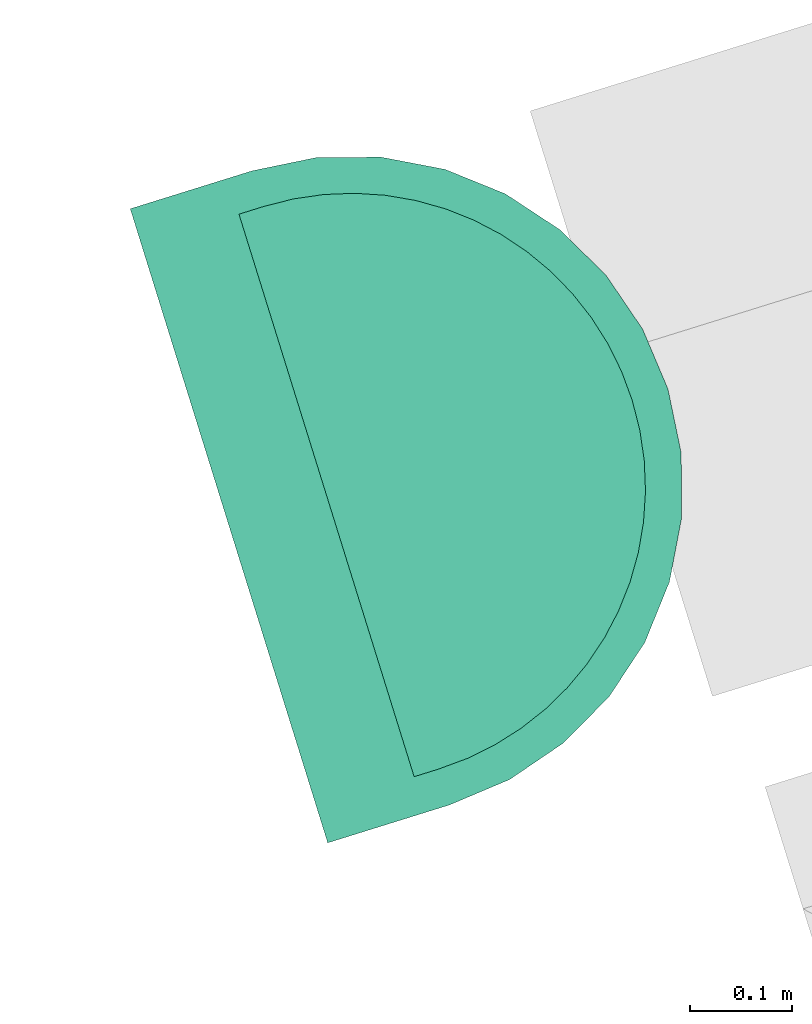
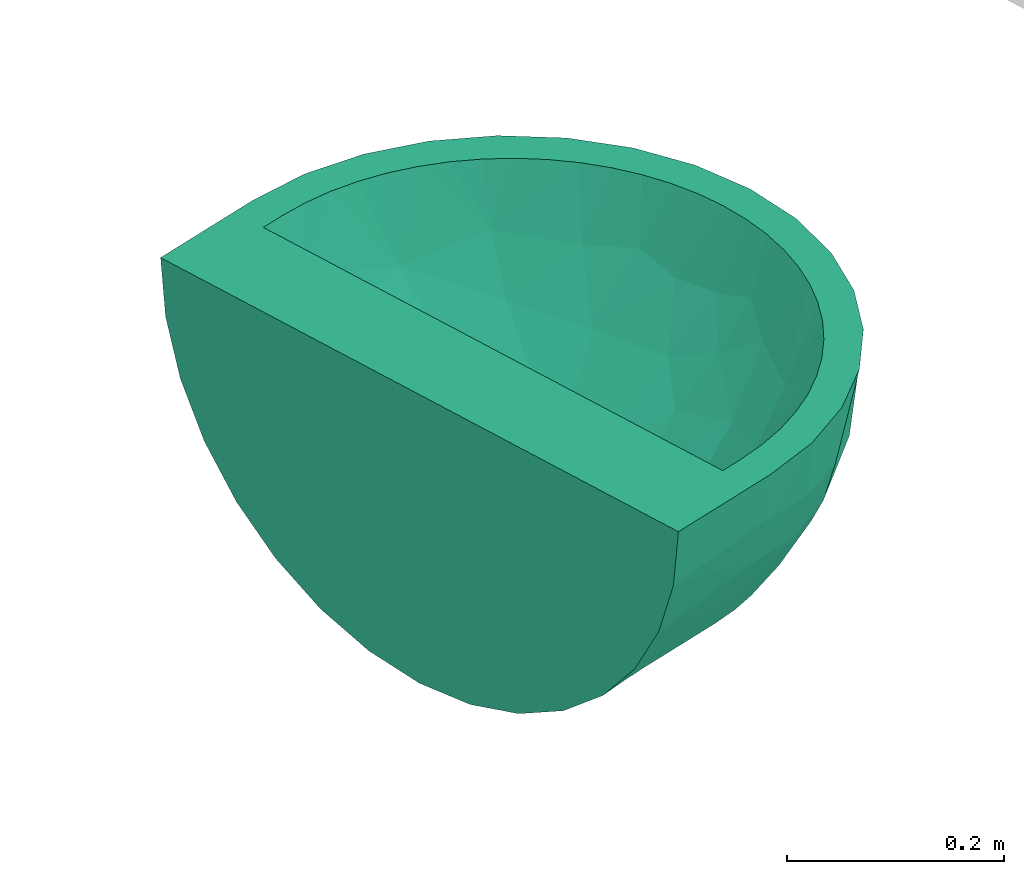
# Not in any storey, part 8 of 17: 1 sanitary terminal.
"""IFC4 model written with IfcOpenShell, lengths in metres."""

from ifc_helpers import new_model, entity, si_unit, converted_unit, direction, frame, origin, place, context, subcontext, project, polygons, source, transform, mapped, material, type_object, type_shapes, element, save


model = new_model("IFC4")

# Units and contexts
model_context = context("Model", 3, precision=1e-05, world=origin(), true_north=direction((6.12323399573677e-17, 1.0)))
body_context = subcontext(model_context, "Body", "Model", "MODEL_VIEW")
ifc_project = project(units=[si_unit("LENGTHUNIT", "METRE"), si_unit("AREAUNIT", "SQUARE_METRE"), converted_unit("PLANEANGLEUNIT", "DEGREE", entity("IfcPlaneAngleMeasure", 0.0174532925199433), si_unit("PLANEANGLEUNIT", "RADIAN"), dimensions=[0, 0, 0, 0, 0, 0, 0]), si_unit("VOLUMEUNIT", "CUBIC_METRE")], contexts=[model_context])

# Sanitary terminal
ifc_material = material(Name="<Unnamed>")
sanitary_terminal_type = type_object("IfcSanitaryTerminalType", Name="NLRS_74_PF_WB_wastafel_gen:wastafel", PredefinedType="SINK", material=ifc_material)
shared_shape = source(origin(), body_context, "Body", "Tessellation", [
    polygons([(-0.303081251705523, -0.175000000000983, -6.7), (-0.296836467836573, -0.238404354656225, -6.7), (-0.278342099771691, -0.299372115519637, -6.7), (-0.248308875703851, -0.355560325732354, -6.7), (-0.207890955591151, -0.404809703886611, -6.7), (-0.158641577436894, -0.44522762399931, -6.7), (-0.102453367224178, -0.475260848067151, -6.7), (-0.0414856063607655, -0.493755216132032, -6.7), (0.021918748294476, -0.500000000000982, -6.7), (0.021918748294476, -0.463314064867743, -6.7), (-0.00821701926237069, -0.461734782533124, -6.7), (-0.038024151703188, -0.457013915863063, -6.7), (-0.0671705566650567, -0.449204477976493, -6.7), (-0.0953421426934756, -0.438391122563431, -6.7), (-0.122231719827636, -0.424691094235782, -6.7), (-0.147543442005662, -0.408254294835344, -6.7), (-0.170998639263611, -0.389261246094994, -6.7), (-0.192339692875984, -0.367920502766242, -6.7), (-0.21133265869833, -0.344466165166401, -6.7), (-0.227769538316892, -0.319155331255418, -6.7), (-0.241470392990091, -0.292265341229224, -6.7), (-0.252285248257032, -0.264090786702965, -6.7), (-0.260095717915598, -0.234940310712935, -6.7), (-0.264816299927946, -0.205133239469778, -6.7), (-0.266395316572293, -0.175000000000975, -6.7), (-0.266395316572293, -0.150000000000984, -6.7), (0.021918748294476, -0.150000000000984, -6.7), (0.021918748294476, -0.0499999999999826, -6.7), (-0.303081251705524, -0.0499999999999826, -6.7), (0.346918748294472, -0.175000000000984, -6.7), (0.346918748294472, -0.0499999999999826, -6.7), (0.310232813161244, -0.150000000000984, -6.7), (0.310232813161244, -0.175000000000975, -6.7), (0.308653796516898, -0.205133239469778, -6.7), (0.303933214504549, -0.234940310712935, -6.7), (0.296122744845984, -0.264090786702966, -6.7), (0.285307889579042, -0.292265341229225, -6.7), (0.271607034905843, -0.319155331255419, -6.7), (0.255170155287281, -0.344466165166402, -6.7), (0.236177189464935, -0.367920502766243, -6.7), (0.214836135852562, -0.389261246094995, -6.7), (0.191380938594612, -0.408254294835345, -6.7), (0.166069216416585, -0.424691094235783, -6.7), (0.139179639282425, -0.438391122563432, -6.7), (0.111008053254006, -0.449204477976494, -6.7), (0.0818616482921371, -0.457013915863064, -6.7), (0.0520545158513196, -0.461734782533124, -6.7), (0.0853231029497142, -0.493755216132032, -6.7), (0.146290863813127, -0.475260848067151, -6.7), (0.202479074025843, -0.44522762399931, -6.7), (0.2517284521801, -0.404809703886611, -6.7), (0.292146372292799, -0.355560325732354, -6.7), (0.32217959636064, -0.299372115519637, -6.7), (0.340673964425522, -0.238404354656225, -6.7), (-0.296836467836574, -0.0499999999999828, -6.76340435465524), (-0.278342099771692, -0.049999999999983, -6.82437211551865), (-0.248308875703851, -0.0499999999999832, -6.88056032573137), (-0.207890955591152, -0.0499999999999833, -6.92980970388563), (-0.158641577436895, -0.0499999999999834, -6.97022762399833), (-0.102453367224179, -0.0499999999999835, -7.00026084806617), (-0.0414856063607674, -0.0499999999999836, -7.01875521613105), (0.0219187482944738, -0.0499999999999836, -7.025), (0.085323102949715, -0.0499999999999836, -7.01875521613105), (0.146290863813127, -0.0499999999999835, -7.00026084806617), (0.202479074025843, -0.0499999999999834, -6.97022762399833), (0.2517284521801, -0.0499999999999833, -6.92980970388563), (0.292146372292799, -0.0499999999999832, -6.88056032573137), (0.32217959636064, -0.049999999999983, -6.82437211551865), (0.340673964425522, -0.0499999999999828, -6.76340435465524), (0.34246627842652, -0.175000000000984, -6.75361232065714), (0.329230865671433, -0.175000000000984, -6.8057556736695), (0.307575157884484, -0.175000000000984, -6.85500134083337), (0.278092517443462, -0.175000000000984, -6.9), (0.278092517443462, -0.0749999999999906, -6.9), (0.237763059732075, -0.0749999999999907, -6.94297372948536), (0.190336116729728, -0.0749999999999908, -6.97795789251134), (0.137371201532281, -0.0749999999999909, -7.00380212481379), (0.0806099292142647, -0.074999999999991, -7.01965660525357), (0.0219187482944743, -0.074999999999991, -7.025), (-0.0367724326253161, -0.074999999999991, -7.01965660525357), (-0.0935337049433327, -0.0749999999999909, -7.00380212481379), (-0.146498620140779, -0.0749999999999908, -6.97795789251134), (-0.193925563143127, -0.0749999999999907, -6.94297372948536), (-0.234255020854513, -0.0749999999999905, -6.9), (-0.234255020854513, -0.175000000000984, -6.9), (-0.263737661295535, -0.175000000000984, -6.85500134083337), (-0.285393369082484, -0.175000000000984, -6.8057556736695), (-0.298628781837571, -0.175000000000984, -6.75361232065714), (-0.228099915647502, -0.0499999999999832, -6.9051850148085), (-0.183266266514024, -0.0499999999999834, -6.95001866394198), (-0.130547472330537, -0.0499999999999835, -6.98524423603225), (-0.0719694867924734, -0.0499999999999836, -7.00950803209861), (0.115806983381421, -0.0499999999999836, -7.00950803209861), (0.174384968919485, -0.0499999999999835, -6.98524423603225), (0.227103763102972, -0.0499999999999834, -6.95001866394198), (0.27193741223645, -0.0499999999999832, -6.9051850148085), (0.257927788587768, -0.0749999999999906, -6.92148686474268), (0.214049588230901, -0.0749999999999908, -6.96046581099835), (-0.170212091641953, -0.0749999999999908, -6.96046581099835), (-0.21409029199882, -0.0749999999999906, -6.92148686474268), (-0.120016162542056, -0.0749999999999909, -6.99088000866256), (-0.0651530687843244, -0.0749999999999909, -7.01172936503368), (0.108990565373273, -0.0749999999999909, -7.01172936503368), (0.163853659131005, -0.0749999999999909, -6.99088000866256), (-0.232753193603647, -0.202698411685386, -6.9), (-0.228265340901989, -0.230071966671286, -6.9), (-0.220844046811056, -0.256799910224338, -6.9), (-0.210576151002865, -0.282569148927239, -6.9), (-0.197581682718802, -0.307077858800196, -6.9), (-0.182012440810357, -0.33003893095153, -6.9), (-0.164050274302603, -0.351183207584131, -6.9), (-0.1439051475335, -0.370262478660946, -6.9), (-0.121813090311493, -0.387052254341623, -6.9), (-0.0980340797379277, -0.401354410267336, -6.9), (-0.0728496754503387, -0.412999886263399, -6.9), (-0.0465597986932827, -0.421851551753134, -6.9), (-0.0194777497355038, -0.427806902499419, -6.9), (0.00807674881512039, -0.43079952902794, -6.9), (0.0357845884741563, -0.430798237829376, -6.9), (0.0633306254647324, -0.427804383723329, -6.9), (0.0904016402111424, -0.421850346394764, -6.9), (0.116683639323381, -0.413001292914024, -6.9), (0.141864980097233, -0.401357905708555, -6.9), (0.165644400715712, -0.38705644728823, -6.9), (0.18773840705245, -0.370266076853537, -6.9), (0.207885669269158, -0.351185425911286, -6.9), (0.225849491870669, -0.330039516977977, -6.9), (0.24141970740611, -0.307076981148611, -6.9), (0.254414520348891, -0.282567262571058, -6.9), (0.264682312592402, -0.256797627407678, -6.9), (0.272103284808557, -0.230069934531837, -6.9), (0.27659082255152, -0.202697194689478, -6.9), (-0.257045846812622, -0.297316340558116, -6.81332461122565), (0.300884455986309, -0.297313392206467, -6.81332505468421), (-0.00978342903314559, -0.496877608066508, -6.7), (-0.205655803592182, -0.378737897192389, -6.81102113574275), (0.249493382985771, -0.378737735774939, -6.81102126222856), (0.0536209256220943, -0.496877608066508, -6.7), (0.0219337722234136, -0.481913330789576, -6.80690747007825), (-0.0719694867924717, -0.484508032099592, -6.7), (0.11580698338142, -0.484508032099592, -6.7), (-0.0425022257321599, -0.471258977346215, -6.81707073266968), (-0.165040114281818, -0.416191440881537, -6.81179477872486), (0.20887408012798, -0.416198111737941, -6.81178629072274), (0.0863501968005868, -0.471256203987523, -6.8170719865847), (-0.23446246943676, -0.305265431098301, -6.85140868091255), (0.278301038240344, -0.305263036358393, -6.85140892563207), (-0.120243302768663, -0.443687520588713, -6.81498681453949), (0.164074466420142, -0.443691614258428, -6.81498507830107), (-0.233336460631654, -0.358005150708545, -6.78353976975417), (0.277175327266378, -0.358003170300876, -6.78353992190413), (-0.290060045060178, -0.240925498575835, -6.76283359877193), (0.333897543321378, -0.240925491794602, -6.76283359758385), (-0.275008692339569, -0.237028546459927, -6.81666856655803), (-0.254394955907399, -0.239447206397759, -6.85850014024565), (-0.272362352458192, -0.296908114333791, -6.76451391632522), (0.31884634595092, -0.237026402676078, -6.81666930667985), (0.298232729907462, -0.239444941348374, -6.85850057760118), (0.316201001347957, -0.296905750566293, -6.76451312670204), (-0.0755829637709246, -0.474402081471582, -6.78047862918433), (-0.0690330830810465, -0.449635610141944, -6.84808121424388), (0.119420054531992, -0.474406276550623, -6.7804635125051), (0.112885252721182, -0.449636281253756, -6.84807095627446), (-0.228099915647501, -0.380185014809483, -6.7), (0.27193741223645, -0.380185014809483, -6.7), (-0.183266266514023, -0.425018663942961, -6.7), (0.227103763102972, -0.425018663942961, -6.7), (-0.130547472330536, -0.460244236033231, -6.7), (0.174384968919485, -0.460244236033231, -6.7), (0.278352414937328, -0.175000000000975, -6.74966665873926), (0.238015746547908, -0.175000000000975, -6.79274902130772), (0.190552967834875, -0.175000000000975, -6.82782638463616), (0.137529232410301, -0.175000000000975, -6.85374202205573), (0.0806930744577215, -0.175000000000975, -6.86964132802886), (0.0219187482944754, -0.175000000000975, -6.875), (-0.0368555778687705, -0.175000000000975, -6.86964132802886), (-0.0936917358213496, -0.175000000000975, -6.85374202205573), (-0.146715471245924, -0.175000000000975, -6.82782638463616), (-0.194178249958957, -0.175000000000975, -6.79274902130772), (-0.234514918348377, -0.175000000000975, -6.74966665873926), (-0.119627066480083, -0.322173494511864, -6.80284332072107), (0.163464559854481, -0.32217349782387, -6.8028433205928), (-0.200517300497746, -0.262511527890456, -6.77020203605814), (0.244354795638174, -0.262511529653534, -6.77020203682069), (-0.162633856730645, -0.347041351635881, -6.75485875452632), (0.206471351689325, -0.347041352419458, -6.75485875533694), (0.00220012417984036, -0.367185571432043, -6.81134437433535), (-0.0912046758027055, -0.393814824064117, -6.76200981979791), (0.135042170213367, -0.393814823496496, -6.76200982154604), (0.0498196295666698, -0.280825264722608, -6.85601887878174), (-0.0620730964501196, -0.266760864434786, -6.85025041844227), (0.160889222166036, -0.248929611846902, -6.83433540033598), (0.0405814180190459, -0.417340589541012, -6.76574926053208), (0.0863370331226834, -0.354389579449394, -6.81323879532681), (-0.00909478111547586, -0.420066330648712, -6.76120050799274), (-0.0478694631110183, -0.381606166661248, -6.79097405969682), (-0.0422183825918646, -0.327597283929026, -6.82968821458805), (-0.0074080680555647, -0.286981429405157, -6.8536858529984), (-0.00719351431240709, -0.22811728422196, -6.869305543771), (-0.0504034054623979, -0.422275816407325, -6.7481140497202), (0.115439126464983, -0.298042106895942, -6.83590134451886), (0.101584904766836, -0.237319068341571, -6.85886022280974), (-0.144773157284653, -0.251326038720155, -6.81835264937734), (0.0860600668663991, -0.418745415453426, -6.75518056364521), (0.278341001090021, -0.150000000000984, -6.74968131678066), (0.238003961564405, -0.150000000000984, -6.79275951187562), (0.19054233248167, -0.150000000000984, -6.82783283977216), (0.137520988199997, -0.150000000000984, -6.85374515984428), (0.080687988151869, -0.150000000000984, -6.86964226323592), (0.021917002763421, -0.150000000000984, -6.87499999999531), (-0.0368543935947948, -0.150000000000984, -6.869641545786), (-0.0936885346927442, -0.150000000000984, -6.85374324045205), (-0.146711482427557, -0.150000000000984, -6.8278288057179), (-0.19417475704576, -0.150000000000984, -6.79275213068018), (-0.234512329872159, -0.150000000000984, -6.74966998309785)], [[[9, 138, 48, 141, 49, 169, 50, 167, 51, 165, 52, 53, 54, 30, 31, 28, 29, 1, 2, 3, 4, 164, 5, 166, 6, 168, 7, 140, 8, 135], [10, 11, 12, 13, 14, 15, 16, 17, 18, 19, 20, 21, 22, 23, 24, 25, 26, 27, 32, 33, 34, 35, 36, 37, 38, 39, 40, 41, 42, 43, 44, 45, 46, 47]], [[1, 29, 88]], [[87, 88, 55]], [[56, 86, 87]], [[58, 100, 89]], [[93, 103, 63]], [[91, 60, 101]], [[97, 75, 66]], [[61, 102, 92]], [[61, 62, 80]], [[84, 85, 86]], [[94, 65, 76]], [[89, 84, 57]], [[86, 56, 57]], [[88, 29, 55]], [[55, 56, 87]], [[86, 57, 84]], [[82, 59, 91]], [[92, 81, 60]], [[58, 90, 83]], [[59, 82, 99]], [[93, 64, 77]], [[59, 99, 90]], [[84, 89, 100]], [[100, 58, 83]], [[81, 101, 60]], [[62, 79, 80]], [[103, 93, 77]], [[98, 76, 65]], [[98, 95, 75]], [[95, 66, 75]], [[101, 82, 91]], [[104, 94, 76]], [[69, 70, 71]], [[72, 73, 74]], [[71, 72, 68]], [[80, 102, 61]], [[78, 79, 62]], [[30, 70, 31]], [[83, 90, 99]], [[78, 63, 103]], [[104, 77, 64]], [[65, 95, 98]], [[102, 81, 92]], [[62, 63, 78]], [[96, 67, 74]], [[97, 66, 96]], [[67, 72, 74]], [[72, 67, 68]], [[68, 69, 71]], [[69, 31, 70]], [[97, 96, 74]], [[94, 104, 64]], [[28, 31, 69, 68, 67, 96, 66, 95, 65, 94, 64, 93, 63, 62, 61, 92, 60, 91, 59, 90, 58, 89, 57, 56, 55, 29]], [[6, 136, 143]], [[52, 159, 53]], [[158, 157, 134]], [[111, 112, 143]], [[136, 150, 146]], [[143, 110, 111]], [[129, 147, 128]], [[110, 143, 136]], [[148, 143, 112]], [[159, 157, 153]], [[161, 115, 116]], [[139, 135, 142]], [[53, 159, 153]], [[142, 117, 118]], [[143, 148, 7]], [[8, 160, 142]], [[134, 151, 147]], [[148, 161, 160]], [[114, 148, 113]], [[7, 148, 140]], [[8, 140, 160]], [[130, 131, 158]], [[136, 146, 109]], [[152, 3, 2]], [[160, 140, 148]], [[87, 152, 88]], [[154, 133, 156]], [[1, 88, 2]], [[2, 88, 152]], [[165, 51, 151]], [[147, 151, 137]], [[4, 3, 156]], [[142, 161, 116]], [[139, 142, 118]], [[107, 155, 106]], [[146, 107, 108]], [[124, 125, 149]], [[166, 5, 150]], [[155, 86, 85]], [[118, 119, 139]], [[86, 154, 87]], [[154, 86, 155]], [[148, 114, 161]], [[139, 145, 138]], [[107, 146, 155]], [[136, 109, 110]], [[150, 164, 133]], [[85, 105, 155]], [[142, 160, 161]], [[48, 138, 145]], [[158, 73, 72]], [[146, 108, 109]], [[9, 135, 139]], [[9, 139, 138]], [[119, 145, 139]], [[8, 142, 135]], [[120, 121, 145]], [[124, 149, 123]], [[49, 141, 149]], [[137, 50, 144]], [[156, 152, 154]], [[133, 155, 146]], [[137, 144, 127]], [[112, 113, 148]], [[162, 145, 163]], [[134, 165, 151]], [[149, 125, 144]], [[127, 128, 137]], [[120, 145, 119]], [[155, 133, 154]], [[48, 145, 162]], [[152, 156, 3]], [[133, 146, 150]], [[168, 6, 143, 7]], [[144, 125, 126]], [[144, 126, 127]], [[163, 145, 121]], [[151, 167, 137]], [[147, 137, 128]], [[142, 116, 117]], [[157, 158, 72]], [[158, 147, 130]], [[141, 48, 162]], [[158, 134, 147]], [[147, 129, 130]], [[72, 71, 157]], [[158, 132, 73]], [[87, 154, 152]], [[70, 54, 153]], [[163, 122, 123]], [[167, 50, 137]], [[133, 164, 156]], [[54, 70, 30]], [[71, 70, 153]], [[136, 166, 150]], [[159, 134, 157]], [[158, 131, 132]], [[53, 153, 54]], [[169, 49, 144, 50]], [[105, 106, 155]], [[150, 5, 164]], [[165, 134, 159]], [[71, 153, 157]], [[114, 115, 161]], [[162, 149, 141]], [[163, 123, 149]], [[162, 163, 149]], [[122, 163, 121]], [[4, 156, 164]], [[159, 52, 165]], [[166, 136, 6]], [[167, 151, 51]], [[149, 144, 49]], [[185, 16, 15]], [[198, 187, 190]], [[185, 18, 17]], [[190, 202, 199]], [[187, 198, 197]], [[20, 185, 183]], [[15, 14, 188]], [[181, 197, 191]], [[193, 195, 10]], [[204, 194, 193]], [[177, 203, 191]], [[196, 187, 197]], [[196, 200, 195]], [[10, 195, 11]], [[185, 15, 188]], [[187, 196, 195]], [[200, 196, 188]], [[191, 197, 198]], [[22, 183, 23]], [[13, 200, 188]], [[180, 24, 23]], [[190, 194, 201]], [[202, 201, 192]], [[25, 24, 180]], [[183, 22, 21]], [[200, 12, 11]], [[179, 183, 203]], [[178, 203, 177]], [[201, 202, 190]], [[180, 183, 179]], [[23, 183, 180]], [[19, 18, 185]], [[20, 183, 21]], [[172, 184, 171]], [[13, 188, 14]], [[185, 20, 19]], [[190, 199, 198]], [[16, 185, 17]], [[181, 188, 196]], [[191, 199, 176]], [[193, 187, 195]], [[194, 189, 182]], [[189, 43, 186]], [[184, 192, 182]], [[173, 174, 202]], [[45, 44, 189]], [[204, 47, 46]], [[186, 43, 42]], [[186, 41, 40]], [[181, 196, 197]], [[38, 184, 186]], [[187, 193, 194]], [[45, 189, 204]], [[39, 38, 186]], [[182, 201, 194]], [[186, 42, 41]], [[199, 175, 176]], [[184, 38, 37]], [[189, 44, 43]], [[177, 191, 176]], [[192, 184, 172]], [[172, 173, 192]], [[186, 184, 182]], [[203, 183, 181]], [[191, 198, 199]], [[185, 188, 181]], [[184, 170, 171]], [[11, 195, 200]], [[12, 200, 13]], [[184, 35, 170]], [[170, 34, 33]], [[34, 170, 35]], [[193, 10, 47]], [[186, 40, 39]], [[175, 199, 202]], [[36, 35, 184]], [[36, 184, 37]], [[183, 185, 181]], [[201, 182, 192]], [[204, 46, 45]], [[187, 194, 190]], [[189, 186, 182]], [[173, 202, 192]], [[202, 174, 175]], [[191, 203, 181]], [[179, 203, 178]], [[194, 204, 189]], [[47, 204, 193]], [[180, 26, 25]], [[179, 215, 180]], [[213, 178, 177]], [[179, 178, 214]], [[212, 177, 176]], [[215, 26, 180]], [[214, 215, 179]], [[210, 211, 176]], [[212, 213, 177]], [[211, 212, 176]], [[214, 178, 213]], [[176, 175, 210]], [[209, 175, 174]], [[173, 208, 174]], [[206, 172, 171]], [[173, 172, 207]], [[205, 171, 170]], [[209, 174, 208]], [[208, 173, 207]], [[171, 205, 206]], [[206, 207, 172]], [[205, 170, 32]], [[33, 32, 170]], [[175, 209, 210]], [[32, 27, 26, 215, 214, 213, 212, 211, 210, 209, 208, 207, 206, 205]], [[82, 101, 81, 102, 80, 79, 78, 103, 77, 104, 76, 98, 75, 97, 74, 84, 100, 83, 99]], [[73, 132, 131, 130, 129, 128, 127, 126, 125, 124, 123, 122, 121, 120, 119, 118, 117, 116, 115, 114, 113, 112, 111, 110, 109, 108, 107, 106, 105, 85, 84, 74]]], closed=True),
])
type_shapes(sanitary_terminal_type, [shared_shape])
placement_1 = place(None, frame((13.1347999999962, 11.9886000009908, 0.0), z_axis=(0.0, 0.0, 1.0), x_axis=(0.954770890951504, 0.297342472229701, 0.0)))
placement_2 = place(placement_1, origin())
placement_3 = place(placement_2, frame((0.0, 0.0, 3.9)))
placement_4 = place(placement_3, origin())
sanitary_terminal_placement = place(placement_4, frame((62.2250000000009, 17.9530812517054, 7.525), z_axis=(0.0, 0.0, 1.0), x_axis=(0.0, 1.0, 0.0)))
element("IfcSanitaryTerminal", 1, at=sanitary_terminal_placement, type_object=sanitary_terminal_type, material=ifc_material, Name="NLRS_74_PF_WB_wastafel_gen:wastafel", ObjectType="NLRS_74_PF_WB_wastafel_gen:wastafel", PredefinedType="SINK", context=body_context, shape_type="MappedRepresentation", body=[
    mapped(shared_shape, transform((0.0, 0.0, 0.0), scale=1.0)),
])

save(model, "model.ifc")
